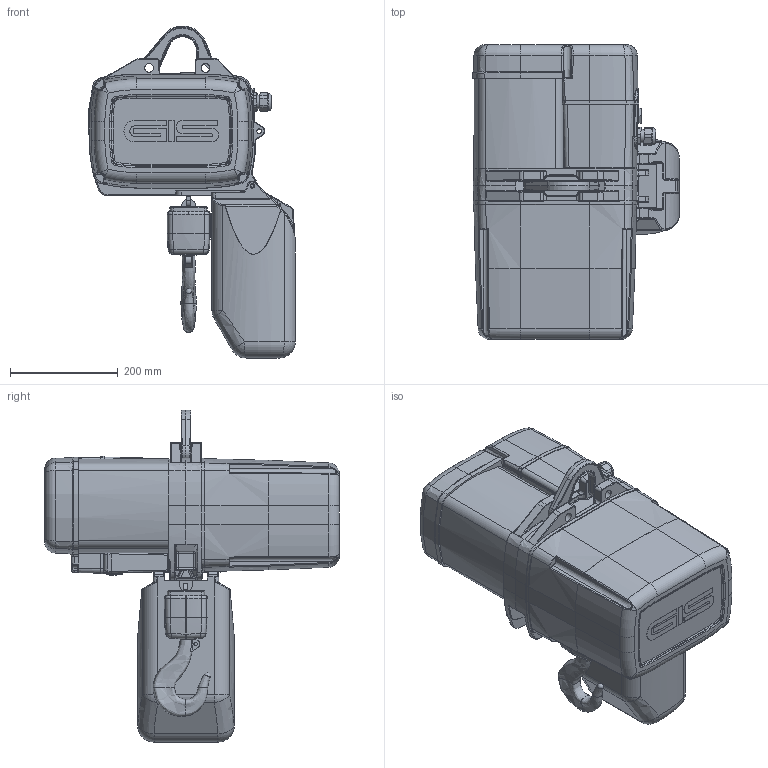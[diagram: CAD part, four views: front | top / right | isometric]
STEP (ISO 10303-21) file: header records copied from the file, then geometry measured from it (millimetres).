
FILE_DESCRIPTION(/* description */ (''),/* implementation_level */ '2;1');
FILE_NAME(/* name */ 'G:\Technik\3D-Dateien light_2015_10_02\Hebezeuge\Industrie GPM, GP\9515.9201.L GP1000 1str.stp',/* time_stamp */ '2016-09-21T13:19:00+02:00',/* author */ ('gispen'),/* organization */ (''),/* preprocessor_version */ 'ST-DEVELOPER v15.6',/* originating_system */ 'Autodesk Inventor 2015',/* authorisation */ '');
FILE_SCHEMA (('AUTOMOTIVE_DESIGN { 1 0 10303 214 3 1 1 }'));
Length unit declared in the file: millimetre
Products named in the file (1): 9515.9201.L
Bounding box: 384.17 x 547.5 x 617.42 mm (x, y, z)
Volume: 38634329.8 mm3; surface area: 1037015.6 mm2
Topology: 4 solids, 4 shells, 1669 faces, 4128 edges, 2431 vertices
Faces by surface type: bspline 496, cylinder 429, plane 361, torus 216, cone 122, sphere 45
Full cylindrical faces by diameter (mm): 6.2 x1, 8 x3, 8.5 x4, 16.5 x6, 20 x1, 22 x1, 25 x2, 29.5 x2, 30 x1
Entity records: 79221 total; most frequent: CARTESIAN_POINT 40693, ORIENTED_EDGE 8028, DIRECTION 7239, EDGE_CURVE 4014, AXIS2_PLACEMENT_3D 2965, VERTEX_POINT 2412, EDGE_LOOP 1754, STYLED_ITEM 1673
